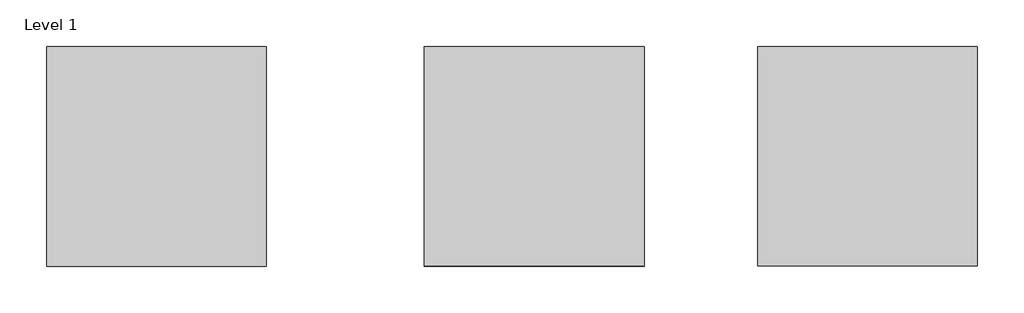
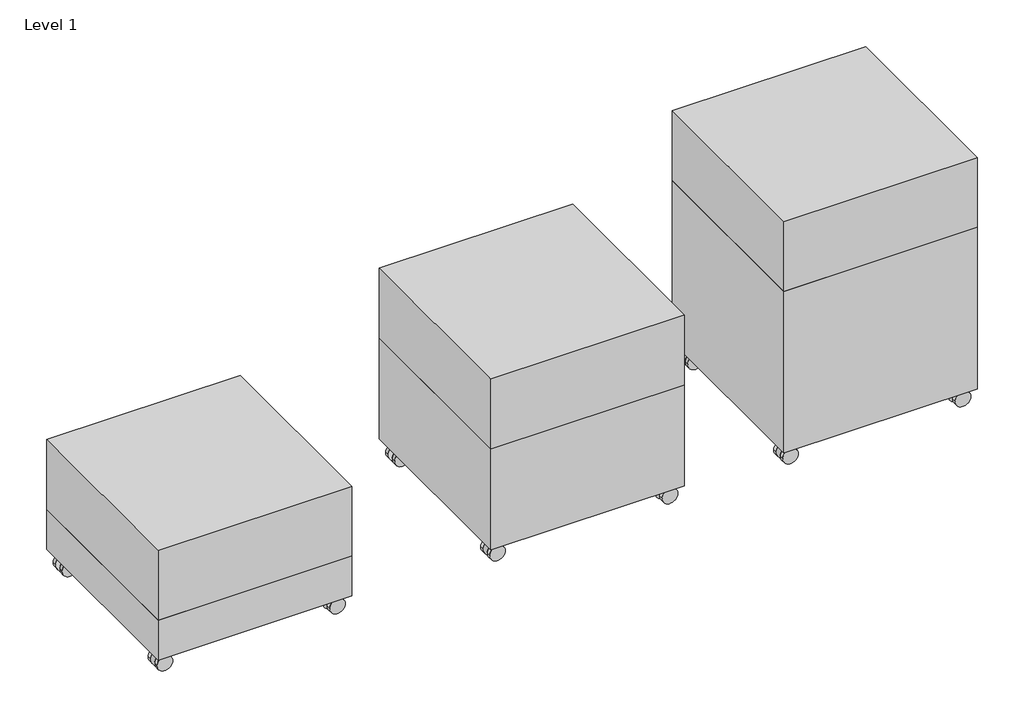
# One storey: 3 furniture elements.
"""IFC4 building model written with IfcOpenShell, lengths in millimetres."""

from ifc_helpers import new_model, si_unit, origin, place, context, project, spatial, transform, mapped, element, save
from components import furniture_d199673e, furniture_4836a37e, furniture_2e75734d

model = new_model("IFC4")

# Units and contexts
model_context = context("Model", 3, world=origin())
ifc_project = project(units=[si_unit("LENGTHUNIT", "METRE", prefix="MILLI")], contexts=[model_context])

# Site, building, storey
site = spatial("IfcSite", under=ifc_project)
building = spatial("IfcBuilding", under=site)
storey = spatial("IfcBuildingStorey", under=building, Name="Level 1", Elevation=0.0)

# Furniture
placement = place(None, origin())
furniture_shape = furniture_d199673e(model_context)
element("IfcFurniture", 1, ObjectType="BK Library - Flipover - Large : BK Library - Flipover - Large", at=placement, inside=storey, context=model_context, shape_type="MappedRepresentation", body=[
    mapped(furniture_shape, transform((-2580.4197455, 2197.9079464, 0.0), x_axis=(1.0, 0.0, 0.0), y_axis=(0.0, 1.0, 0.0), z_axis=(0.0, 0.0, 1.0))),
])
furniture_2_shape = furniture_4836a37e(model_context)
element("IfcFurniture", 2, ObjectType="BK Library - Flipover - Medium : BK Library - Flipover - Medium", at=placement, inside=storey, context=model_context, shape_type="MappedRepresentation", body=[
    mapped(furniture_2_shape, transform((-3488.9176536, 2197.9079464, 0.0), x_axis=(1.0, 0.0, 0.0), y_axis=(0.0, 1.0, 0.0), z_axis=(0.0, 0.0, 1.0))),
])
furniture_3_shape = furniture_2e75734d(model_context)
element("IfcFurniture", 3, ObjectType="BK Library - Flipover - Small : BK Library - Flipover - Small", at=placement, inside=storey, context=model_context, shape_type="MappedRepresentation", body=[
    mapped(furniture_3_shape, transform((-4519.988453, 2197.9079464, 0.0), x_axis=(1.0, 0.0, 0.0), y_axis=(0.0, 1.0, 0.0), z_axis=(0.0, 0.0, 1.0))),
])

save(model, "model.ifc")
